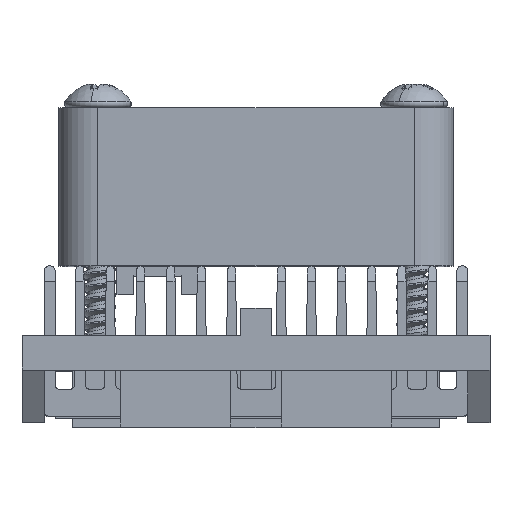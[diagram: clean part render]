
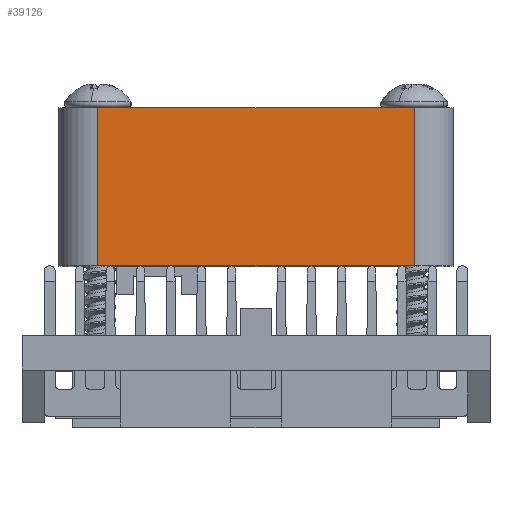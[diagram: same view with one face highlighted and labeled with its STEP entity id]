
A CAD part, top view. The second image highlights one B-rep face of the part: STEP entity #39126.
In plain terms, the highlighted planar face has unit normal (0, 0, 1).
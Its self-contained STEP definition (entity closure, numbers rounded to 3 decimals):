
#950 = CARTESIAN_POINT ( 'NONE',  ( 10., 19.5, 12.5 ) ) ;
#1158 = CARTESIAN_POINT ( 'NONE',  ( -10., 19.5, 12.5 ) ) ;
#1194 = CARTESIAN_POINT ( 'NONE',  ( 10., 9.5, 12.5 ) ) ;
#1475 = EDGE_LOOP ( 'NONE', ( #36033, #7105, #42975, #2202 ) ) ;
#1834 = LINE ( 'NONE', #1158, #48957 ) ;
#2019 = AXIS2_PLACEMENT_3D ( 'NONE', #950, #58782, #37236 ) ;
#2202 = ORIENTED_EDGE ( 'NONE', *, *, #41422, .T. ) ;
#5464 = VERTEX_POINT ( 'NONE', #21905 ) ;
#5622 = DIRECTION ( 'NONE',  ( 0., -1., 0. ) ) ;
#7105 = ORIENTED_EDGE ( 'NONE', *, *, #51808, .F. ) ;
#10538 = PLANE ( 'NONE',  #2019 ) ;
#11453 = LINE ( 'NONE', #16225, #39863 ) ;
#11913 = CARTESIAN_POINT ( 'NONE',  ( 10., 9.5, 12.5 ) ) ;
#13028 = VERTEX_POINT ( 'NONE', #32430 ) ;
#16225 = CARTESIAN_POINT ( 'NONE',  ( 10., 19.5, 12.5 ) ) ;
#20164 = LINE ( 'NONE', #44869, #46316 ) ;
#21905 = CARTESIAN_POINT ( 'NONE',  ( 10., 19.5, 12.5 ) ) ;
#24329 = DIRECTION ( 'NONE',  ( 1., 0., 0. ) ) ;
#28472 = VERTEX_POINT ( 'NONE', #11913 ) ;
#31684 = VECTOR ( 'NONE', #52519, 1000. ) ;
#31979 = DIRECTION ( 'NONE',  ( 0., -1., 0. ) ) ;
#32430 = CARTESIAN_POINT ( 'NONE',  ( -10., 9.5, 12.5 ) ) ;
#33134 = EDGE_CURVE ( 'NONE', #36500, #5464, #20164, .T. ) ;
#36033 = ORIENTED_EDGE ( 'NONE', *, *, #57396, .T. ) ;
#36500 = VERTEX_POINT ( 'NONE', #37516 ) ;
#37236 = DIRECTION ( 'NONE',  ( -1., 0., 0. ) ) ;
#37516 = CARTESIAN_POINT ( 'NONE',  ( -10., 19.5, 12.5 ) ) ;
#39126 = ADVANCED_FACE ( 'NONE', ( #47162 ), #10538, .F. ) ;
#39863 = VECTOR ( 'NONE', #5622, 1000. ) ;
#41422 = EDGE_CURVE ( 'NONE', #36500, #13028, #1834, .T. ) ;
#42975 = ORIENTED_EDGE ( 'NONE', *, *, #33134, .F. ) ;
#44869 = CARTESIAN_POINT ( 'NONE',  ( 10., 19.5, 12.5 ) ) ;
#46316 = VECTOR ( 'NONE', #24329, 1000. ) ;
#47162 = FACE_OUTER_BOUND ( 'NONE', #1475, .T. ) ;
#48957 = VECTOR ( 'NONE', #31979, 1000. ) ;
#51808 = EDGE_CURVE ( 'NONE', #5464, #28472, #11453, .T. ) ;
#52519 = DIRECTION ( 'NONE',  ( 1., 0., 0. ) ) ;
#57396 = EDGE_CURVE ( 'NONE', #13028, #28472, #58361, .T. ) ;
#58361 = LINE ( 'NONE', #1194, #31684 ) ;
#58782 = DIRECTION ( 'NONE',  ( 0., 0., -1. ) ) ;
